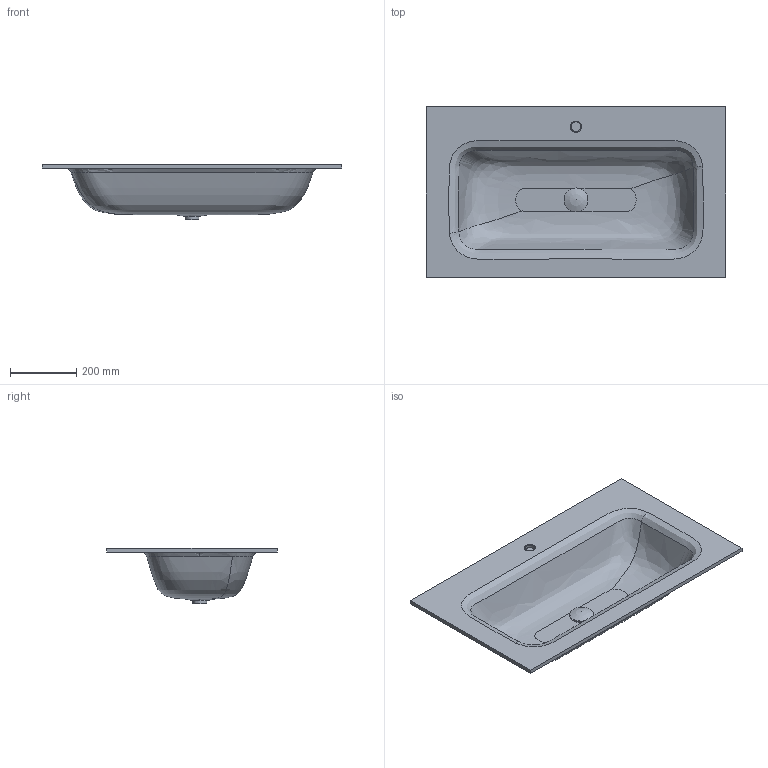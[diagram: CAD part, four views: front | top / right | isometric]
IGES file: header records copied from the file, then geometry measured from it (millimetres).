
Start section: Data from Parasolid IGES Translator 19.0.9, Copyright(c) 2006 Siemens PL M Software. All Rights Reserved.
Global section: file name: noorth-top-H 1,2 D 51,3 W 90_4781.igs; native system: By Siemens PLM Incorporated; preprocessor: XPlus GENERIC/IGES 19.0.9; author: Noname; organization: Noname; date: 20200603.103752; units: metre
Bounding box: 900 x 513 x 166.92 mm (x, y, z)
Volume: 6638347.3 mm3; surface area: 1269777.1 mm2
Topology: 4 solids, 4 shells, 62 faces, 184 edges, 134 vertices
Faces by surface type: plane 18, bspline 17, revolution 13, cylinder 10, extrusion 3, cone 1
Full cylindrical faces by diameter (mm): 0.043 x1, 19.989 x1, 30 x1, 50 x1, 62.239 x1, 71.973 x1
